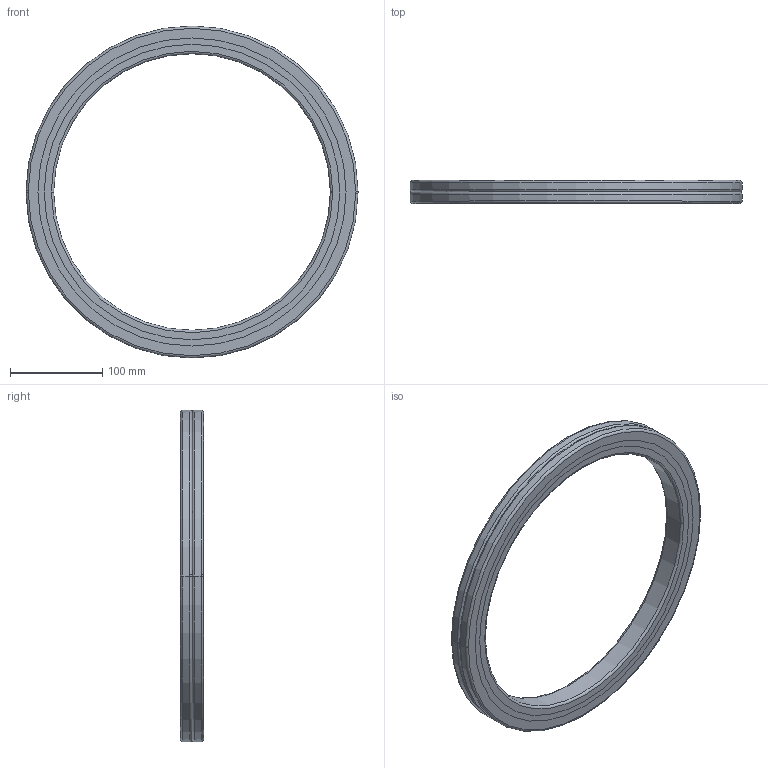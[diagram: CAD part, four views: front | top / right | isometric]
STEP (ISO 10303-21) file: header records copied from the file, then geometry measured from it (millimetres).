
FILE_DESCRIPTION(('no description'),'unknown implementation level');
FILE_NAME('CRBA30025_47.stp',' ',('HIWIN GmbH'),('CADClick - KiM GmbH - www.kimweb.de'),'unknown preprocess','ACIS','unknown authorization');
FILE_SCHEMA(('automotive_design'));
Length unit declared in the file: millimetre
Products named in the file (5): CRBA30025_1; CRBA30025_2; CRBA30025_3; CRBA30025_4; CRBA30025
Bounding box: 360 x 25 x 360 mm (x, y, z)
Volume: 629159.3 mm3; surface area: 211156.5 mm2
Topology: 5 solids, 5 shells, 54 faces, 120 edges, 76 vertices
Faces by surface type: torus 24, cylinder 20, plane 10
Entity records: 3096 total; most frequent: DIRECTION 338, STYLED_ITEM 255, PRESENTATION_STYLE_ASSIGNMENT 255, CARTESIAN_POINT 255, COLOUR_RGB 255, ORIENTED_EDGE 240, AXIS2_PLACEMENT_3D 159, EDGE_CURVE 120
